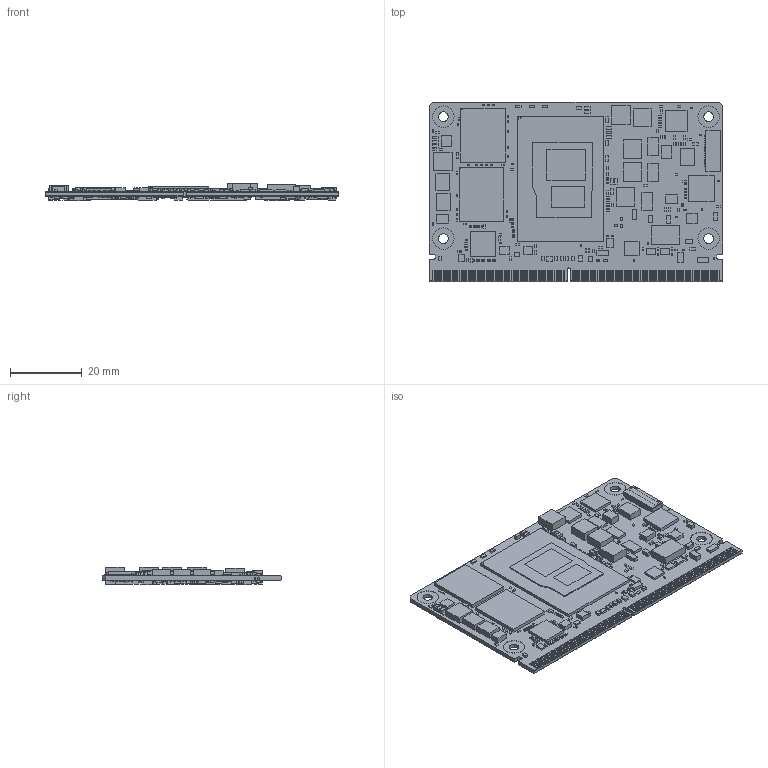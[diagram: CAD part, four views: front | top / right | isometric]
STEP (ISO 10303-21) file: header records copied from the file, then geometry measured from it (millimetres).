
FILE_DESCRIPTION (( 'STEP AP203' ), '1' );
FILE_NAME ('LEC-ALN 55 ASSY.STEP', '2024-04-25T07:28:56', ( '' ), ( '' ), 'SwSTEP 2.0', 'SolidWorks 2022', '' );
FILE_SCHEMA (( 'CONFIG_CONTROL_DESIGN' ));
Length unit declared in the file: millimetre
Products named in the file (7): Alder Lake-N; 61-02Q00-0310; LEC-ALN 51_0A10; 72-62132-0DZ0; lecaln0a20final_BOT; lecaln0a20final_TOP; LEC-ALN 55 ASSY
Assembly tree (7 placements, depth 2):
  LEC-ALN 55 ASSY
    LEC-ALN 51_0A10
    Alder Lake-N
    72-62132-0DZ0  x2
    61-02Q00-0310
    lecaln0a20final_TOP
    lecaln0a20final_BOT
Bounding box: 82 x 50 x 4.82 mm (x, y, z)
Volume: 7623.5 mm3; surface area: 17677.9 mm2
Topology: 592 solids, 592 shells, 8300 faces, 22139 edges, 14648 vertices
Faces by surface type: plane 6887, cylinder 1319, bspline 94
Entity records: 257983 total; most frequent: CARTESIAN_POINT 48569, ORIENTED_EDGE 44224, DIRECTION 40960, EDGE_CURVE 22112, LINE 19286, VECTOR 19286, VERTEX_POINT 14630, AXIS2_PLACEMENT_3D 10837
